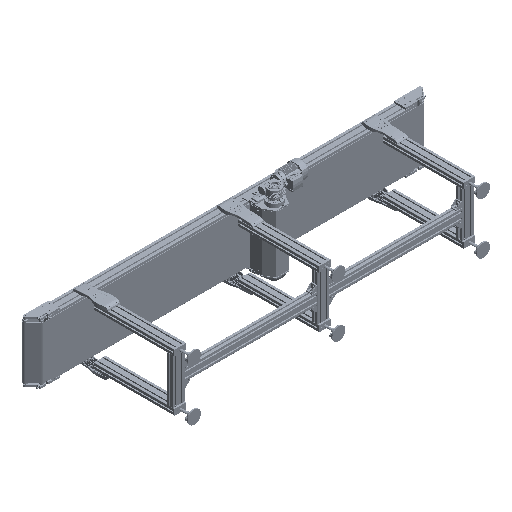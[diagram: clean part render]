
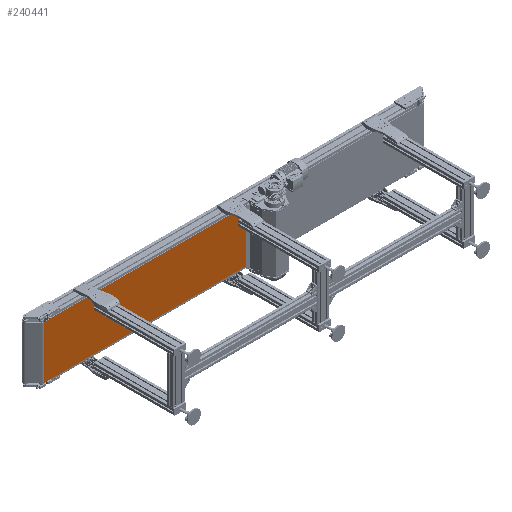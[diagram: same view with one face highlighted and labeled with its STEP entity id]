
A CAD part, isometric view. The second image highlights one B-rep face of the part: STEP entity #240441.
In plain terms, the highlighted planar face has unit normal (0, -1, 0).
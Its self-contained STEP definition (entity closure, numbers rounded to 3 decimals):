
#1497 = VERTEX_POINT ( 'NONE', #159302 ) ;
#6355 = VECTOR ( 'NONE', #166556, 1000. ) ;
#13507 = ORIENTED_EDGE ( 'NONE', *, *, #177077, .T. ) ;
#27331 = CARTESIAN_POINT ( 'NONE',  ( -1440., -49.5, 200. ) ) ;
#32918 = CARTESIAN_POINT ( 'NONE',  ( 140., -49.5, 200. ) ) ;
#38223 = DIRECTION ( 'NONE',  ( -1., 0., 0. ) ) ;
#40954 = DIRECTION ( 'NONE',  ( 0., 0., -1. ) ) ;
#65698 = DIRECTION ( 'NONE',  ( 0., 1., 0. ) ) ;
#67766 = CARTESIAN_POINT ( 'NONE',  ( 140., -49.5, -200. ) ) ;
#108635 = FACE_OUTER_BOUND ( 'NONE', #189026, .T. ) ;
#132650 = VECTOR ( 'NONE', #255610, 1000. ) ;
#142268 = VECTOR ( 'NONE', #40954, 1000. ) ;
#155220 = VERTEX_POINT ( 'NONE', #259060 ) ;
#155707 = LINE ( 'NONE', #221560, #142268 ) ;
#159302 = CARTESIAN_POINT ( 'NONE',  ( -1440., -49.5, -200. ) ) ;
#166556 = DIRECTION ( 'NONE',  ( 1., 0., 0. ) ) ;
#173641 = DIRECTION ( 'NONE',  ( 0., 0., -1. ) ) ;
#177077 = EDGE_CURVE ( 'NONE', #155220, #1497, #155707, .T. ) ;
#181966 = PLANE ( 'NONE',  #282829 ) ;
#185204 = CARTESIAN_POINT ( 'NONE',  ( -1440., -49.5, -200. ) ) ;
#188013 = EDGE_CURVE ( 'NONE', #1497, #196893, #281533, .T. ) ;
#189026 = EDGE_LOOP ( 'NONE', ( #261325, #252378, #238035, #13507 ) ) ;
#196893 = VERTEX_POINT ( 'NONE', #67766 ) ;
#205038 = CARTESIAN_POINT ( 'NONE',  ( 140., -49.5, 200. ) ) ;
#215465 = LINE ( 'NONE', #27331, #6355 ) ;
#221560 = CARTESIAN_POINT ( 'NONE',  ( -1440., -49.5, 200. ) ) ;
#225396 = VECTOR ( 'NONE', #173641, 1000. ) ;
#226480 = EDGE_CURVE ( 'NONE', #267689, #196893, #242480, .T. ) ;
#231263 = EDGE_CURVE ( 'NONE', #155220, #267689, #215465, .T. ) ;
#238035 = ORIENTED_EDGE ( 'NONE', *, *, #231263, .F. ) ;
#240441 = ADVANCED_FACE ( 'NONE', ( #108635 ), #181966, .F. ) ;
#242480 = LINE ( 'NONE', #32918, #225396 ) ;
#252378 = ORIENTED_EDGE ( 'NONE', *, *, #226480, .F. ) ;
#255610 = DIRECTION ( 'NONE',  ( 1., 0., 0. ) ) ;
#259060 = CARTESIAN_POINT ( 'NONE',  ( -1440., -49.5, 200. ) ) ;
#261325 = ORIENTED_EDGE ( 'NONE', *, *, #188013, .T. ) ;
#267689 = VERTEX_POINT ( 'NONE', #205038 ) ;
#270777 = CARTESIAN_POINT ( 'NONE',  ( -1440., -49.5, 200. ) ) ;
#281533 = LINE ( 'NONE', #185204, #132650 ) ;
#282829 = AXIS2_PLACEMENT_3D ( 'NONE', #270777, #65698, #38223 ) ;
